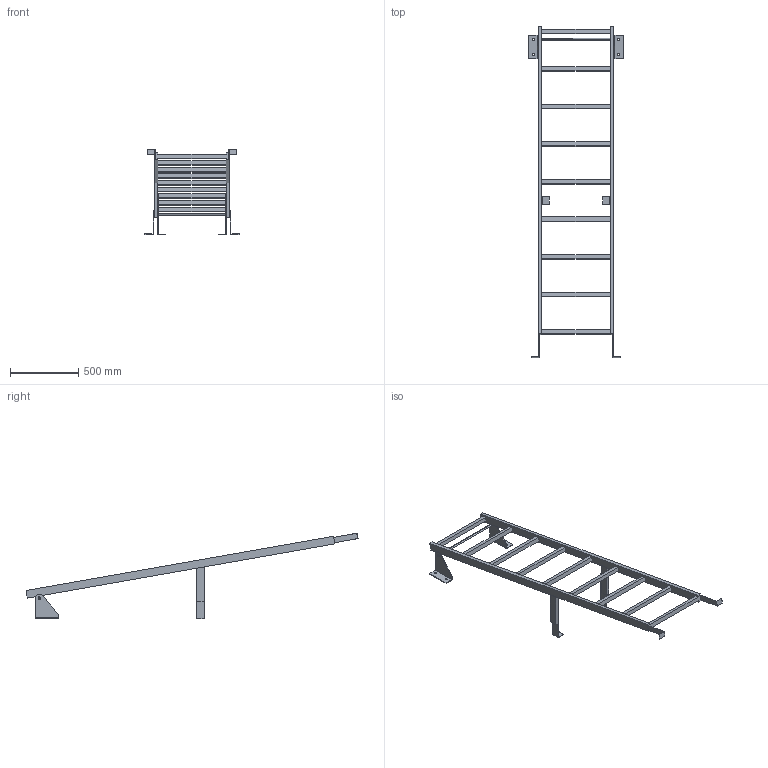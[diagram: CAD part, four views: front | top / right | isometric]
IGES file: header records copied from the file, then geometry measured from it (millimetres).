
Start section:  PTC IGES file: 52309761.igs
Global section: file name: 52309761.igs; native system: Creo Parametric by PTC Inc.; preprocessor: 2022162; author: wep; organization: Unknown; date: 20241017.085910; units: millimetre
Bounding box: 690 x 2434.99 x 626.79 mm (x, y, z)
Surface area: 1640914.2 mm2 (no closed solid volume)
Topology: 0 solids, 0 shells, 120 faces, 624 edges, 624 vertices
Faces by surface type: bspline 104, revolution 16
